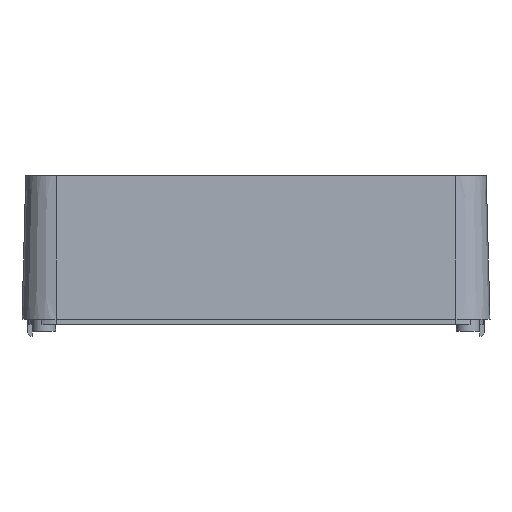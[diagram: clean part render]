
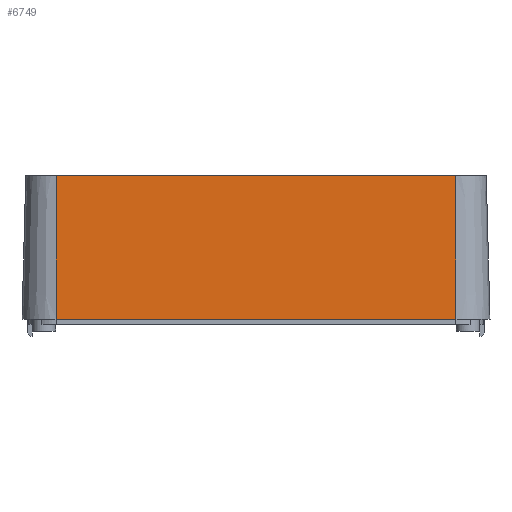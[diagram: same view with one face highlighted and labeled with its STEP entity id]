
A CAD part, front view. The second image highlights one B-rep face of the part: STEP entity #6749.
In plain terms, the highlighted planar face has unit normal (0, -1, 0.026).
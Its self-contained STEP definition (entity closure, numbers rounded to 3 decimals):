
#15=DIRECTION('',(1.,0.,0.));
#16=VECTOR('',#15,117.);
#17=CARTESIAN_POINT('',(-58.5,-112.5,53.));
#18=LINE('',#17,#16);
#177=DIRECTION('',(0.,0.026,1.));
#178=VECTOR('',#177,42.014);
#179=CARTESIAN_POINT('',(58.5,-112.5,53.));
#180=LINE('',#179,#178);
#185=DIRECTION('',(1.,0.,0.));
#186=VECTOR('',#185,117.);
#187=CARTESIAN_POINT('',(-58.5,-111.4,95.));
#188=LINE('',#187,#186);
#193=DIRECTION('',(0.,-0.026,-1.));
#194=VECTOR('',#193,42.014);
#195=CARTESIAN_POINT('',(-58.5,-111.4,95.));
#196=LINE('',#195,#194);
#4989=CARTESIAN_POINT('',(-58.5,-112.5,53.));
#4990=VERTEX_POINT('',#4989);
#4991=CARTESIAN_POINT('',(58.5,-112.5,53.));
#4992=VERTEX_POINT('',#4991);
#5153=CARTESIAN_POINT('',(58.5,-111.4,95.));
#5154=VERTEX_POINT('',#5153);
#5155=CARTESIAN_POINT('',(-58.5,-111.4,95.));
#5156=VERTEX_POINT('',#5155);
#6736=CARTESIAN_POINT('',(-62.697,-112.5,53.));
#6737=DIRECTION('',(0.,-1.,0.026));
#6738=DIRECTION('',(-1.,0.,0.));
#6739=AXIS2_PLACEMENT_3D('',#6736,#6737,#6738);
#6740=PLANE('',#6739);
#6741=ORIENTED_EDGE('',*,*,#6504,.F.);
#6743=ORIENTED_EDGE('',*,*,#6742,.F.);
#6745=ORIENTED_EDGE('',*,*,#6744,.T.);
#6746=ORIENTED_EDGE('',*,*,#6728,.F.);
#6747=EDGE_LOOP('',(#6741,#6743,#6745,#6746));
#6748=FACE_OUTER_BOUND('',#6747,.F.);
#6749=ADVANCED_FACE('',(#6748),#6740,.T.);
#6504=EDGE_CURVE('',#4990,#4992,#18,.T.);
#6728=EDGE_CURVE('',#4992,#5154,#180,.T.);
#6742=EDGE_CURVE('',#5156,#4990,#196,.T.);
#6744=EDGE_CURVE('',#5156,#5154,#188,.T.);
